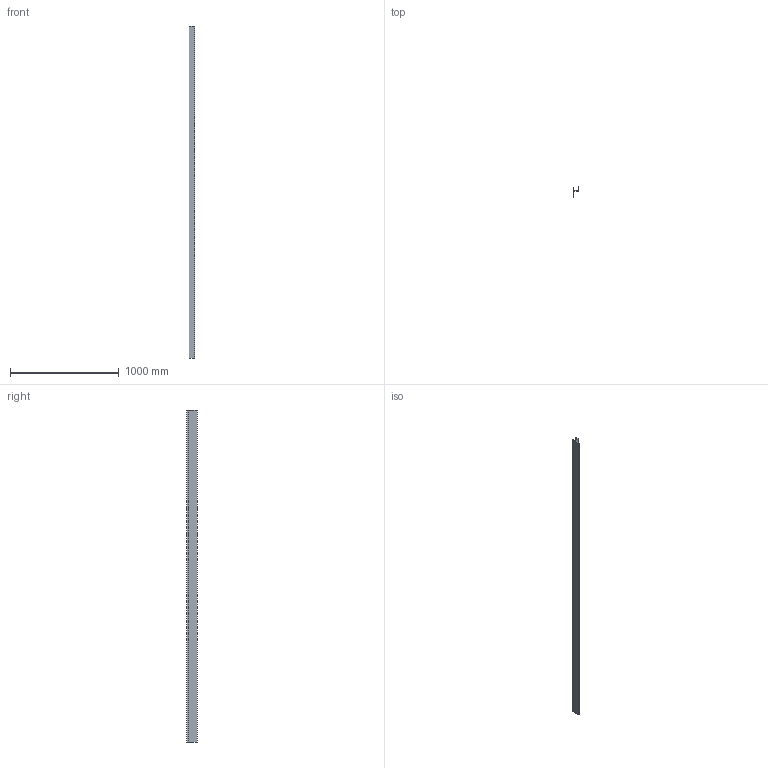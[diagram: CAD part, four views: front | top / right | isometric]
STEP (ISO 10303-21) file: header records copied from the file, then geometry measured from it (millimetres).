
FILE_DESCRIPTION(/* description */ (''),/* implementation_level */ '2;1');
FILE_NAME(/* name */ 'M12J (1-2).stp',/* time_stamp */ '2025-05-14T09:33:29-04:00',/* author */ ('gabrielle.gilbert'),/* organization */ (''),/* preprocessor_version */ 'ST-DEVELOPER v20',/* originating_system */ 'Autodesk Inventor 2025',/* authorisation */ '');
FILE_SCHEMA (('AUTOMOTIVE_DESIGN { 1 0 10303 214 3 1 1 }'));
Length unit declared in the file: inch
Products named in the file (1): M12I (1-2)
Bounding box: 49.45 x 100.77 x 3048 mm (x, y, z)
Volume: 286418.6 mm3; surface area: 1262883.8 mm2
Topology: 1 solids, 1 shells, 22 faces, 60 edges, 40 vertices
Faces by surface type: plane 14, cylinder 8
Entity records: 745 total; most frequent: CARTESIAN_POINT 123, DIRECTION 122, ORIENTED_EDGE 120, EDGE_CURVE 60, LINE 44, VECTOR 44, VERTEX_POINT 40, AXIS2_PLACEMENT_3D 39
